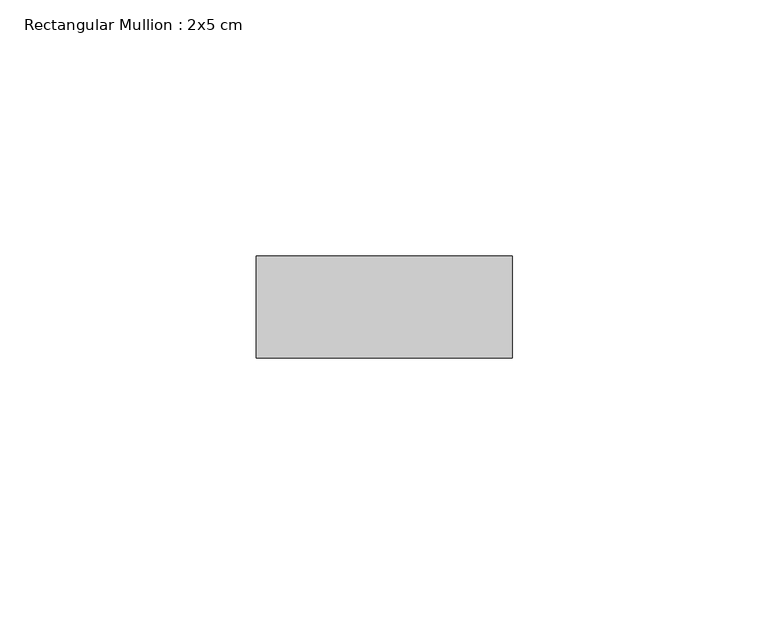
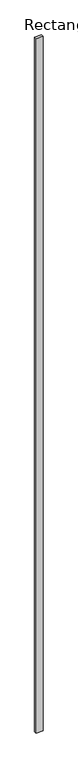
"""IFC4 building model written with IfcOpenShell, lengths in millimetres: member geometry, Rectangular Mullion : 2x5 cm."""

import ifcopenshell
import ifcopenshell.guid

model = None  # the IFC model being written
_history = None  # IfcOwnerHistory: only IFC2X3 demands one
_inside = {}  # id of a spatial element -> (the spatial element, [elements in it])
_under = {}  # id of a project, library or spatial element -> (it, [spatial elements below it])
_declared = {}  # id of a project -> (the project, [libraries it declares])
_typed = {}  # id of a type object -> (the type object, [elements of that type])
_made_of = {}  # id of a material, layer set ... -> (it, [elements and type objects made of it])


def new_model(schema):
    """Start an empty IFC model of exactly this schema.

    Asked for "IFC4X3", IfcOpenShell would pick the latest addendum, in which some entities
    have other attributes; the version numbers below select the first issue.
    IFC2X3 requires an IfcOwnerHistory on every rooted entity: one is made here for all.
    """
    global model, _history
    if schema == "IFC4X3":
        model = ifcopenshell.file(schema_version=(4, 3, 0, 0))
    else:
        model = ifcopenshell.file(schema=schema)
    _inside.clear()
    _under.clear()
    _declared.clear()
    _typed.clear()
    _made_of.clear()
    _history = None
    if model.schema == "IFC2X3":
        org = make("IfcOrganization", Name="unknown")
        user = make(
            "IfcPersonAndOrganization",
            ThePerson=make("IfcPerson", FamilyName="unknown"),
            TheOrganization=org,
        )
        app = make(
            "IfcApplication",
            ApplicationDeveloper=org,
            Version="unknown",
            ApplicationFullName="unknown",
            ApplicationIdentifier="unknown",
        )
        _history = make(
            "IfcOwnerHistory",
            OwningUser=user,
            OwningApplication=app,
            ChangeAction="ADDED",
            CreationDate=0,
        )
    return model


def make(cls, **values):
    """One entity of the class cls with the attributes given. An attribute that is None is left unset."""
    return model.create_entity(
        cls, **{name: value for name, value in values.items() if value is not None}
    )


def rooted(cls, **values):
    """An entity with a GlobalId (a new one), such as an element, a storey or a relation."""
    return make(cls, GlobalId=ifcopenshell.guid.new(), OwnerHistory=_history, **values)


def si_unit(unit_type, name, prefix=None):
    """IfcSIUnit, for example si_unit("LENGTHUNIT", "METRE", prefix="MILLI")."""
    return make("IfcSIUnit", UnitType=unit_type, Prefix=prefix, Name=name)


def assignment(units):
    """IfcUnitAssignment: the units of a project."""
    return None if units is None else make("IfcUnitAssignment", Units=units)


def point(xyz):
    """IfcCartesianPoint."""
    return None if xyz is None else make("IfcCartesianPoint", Coordinates=xyz)


def direction(xyz):
    """IfcDirection."""
    return None if xyz is None else make("IfcDirection", DirectionRatios=xyz)


def frame(location, z_axis=None, x_axis=None):
    """IfcAxis2Placement3D, a coordinate frame: its origin and axes. An axis left out is left unset."""
    return make(
        "IfcAxis2Placement3D",
        Location=point(location),
        Axis=direction(z_axis),
        RefDirection=direction(x_axis),
    )


def origin():
    """The frame at (0, 0, 0) with its axes left unset."""
    return frame((0.0, 0.0, 0.0))


def place(relative_to, where):
    """IfcLocalPlacement: puts the frame where relative to a parent placement (None: the world)."""
    return make(
        "IfcLocalPlacement", PlacementRelTo=relative_to, RelativePlacement=where
    )


def context(
    kind, dimensions, precision=None, world=None, true_north=None, identifier=None
):
    """IfcGeometricRepresentationContext, for example the 3D "Model" context."""
    return make(
        "IfcGeometricRepresentationContext",
        ContextIdentifier=identifier,
        ContextType=kind,
        CoordinateSpaceDimension=dimensions,
        Precision=precision,
        WorldCoordinateSystem=world,
        TrueNorth=true_north,
    )


def project(units=None, contexts=None):
    """IfcProject with its units and contexts."""
    return rooted(
        "IfcProject",
        Name="project",
        RepresentationContexts=contexts,
        UnitsInContext=assignment(units),
    )


def spatial(cls, under=None, at=None, **own):
    """A site, building, storey or space (cls), placed at a placement, below another one or the project."""
    s = rooted(cls, ObjectPlacement=at, **own)
    if under is not None:
        _under.setdefault(under.id(), (under, []))[1].append(s)
    return s


def polyline(points):
    """IfcPolyline through the points."""
    return make("IfcPolyline", Points=[point(p) for p in points])


def outline(outer, holes=None, kind="AREA"):
    """IfcArbitraryClosedProfileDef: a profile drawn as a closed curve; with holes, ...WithVoids."""
    if holes is None:
        return make("IfcArbitraryClosedProfileDef", ProfileType=kind, OuterCurve=outer)
    return make(
        "IfcArbitraryProfileDefWithVoids",
        ProfileType=kind,
        OuterCurve=outer,
        InnerCurves=holes,
    )


def extrude(swept, where, along, depth):
    """IfcExtrudedAreaSolid: the profile swept, set in the frame where, extruded along a direction by depth."""
    return make(
        "IfcExtrudedAreaSolid",
        SweptArea=swept,
        Position=where,
        ExtrudedDirection=direction(along),
        Depth=depth,
    )


def shape(context_of_items, identifier, shape_type, items):
    """IfcShapeRepresentation: the items that make up one representation, for example the "Body"."""
    return make(
        "IfcShapeRepresentation",
        ContextOfItems=context_of_items,
        RepresentationIdentifier=identifier,
        RepresentationType=shape_type,
        Items=items,
    )


def source(mapping_origin, context_of_items, identifier, shape_type, items):
    """IfcRepresentationMap: a shape defined once, which mapped items show again and again."""
    return make(
        "IfcRepresentationMap",
        MappingOrigin=mapping_origin,
        MappedRepresentation=shape(context_of_items, identifier, shape_type, items),
    )


def transform(
    local_origin,
    x_axis=None,
    y_axis=None,
    z_axis=None,
    scale=None,
    scale2=None,
    scale3=None,
    uniform=True,
):
    """IfcCartesianTransformationOperator3D, or its non-uniform kind. x_axis, y_axis, z_axis: its Axis1, 2, 3."""
    if uniform:
        return make(
            "IfcCartesianTransformationOperator3D",
            Axis1=direction(x_axis),
            Axis2=direction(y_axis),
            LocalOrigin=point(local_origin),
            Scale=scale,
            Axis3=direction(z_axis),
        )
    return make(
        "IfcCartesianTransformationOperator3DnonUniform",
        Axis1=direction(x_axis),
        Axis2=direction(y_axis),
        LocalOrigin=point(local_origin),
        Scale=scale,
        Axis3=direction(z_axis),
        Scale2=scale2,
        Scale3=scale3,
    )


def mapped(mapping_source, mapping_target):
    """IfcMappedItem: shows the shape of a source again, moved by a transform."""
    return make(
        "IfcMappedItem", MappingSource=mapping_source, MappingTarget=mapping_target
    )


def made_of(thing, what):
    """Note that an element or type object is made of a material, layer set ...; save() writes the relation."""
    if what is not None:
        _made_of.setdefault(what.id(), (what, []))[1].append(thing)
    return thing


def element(
    cls,
    number,
    at=None,
    inside=None,
    cuts=None,
    type_object=None,
    material=None,
    context=None,
    identifier="Body",
    shape_type=None,
    held_by="IfcProductDefinitionShape",
    body=None,
    shapes=None,
    **own,
):
    """One element of the class cls, such as IfcWall. Its Tag is "e" and its number.

    at: its placement. inside: the storey or other place that contains it. cuts: it is an
    opening in that element (IfcRelVoidsElement). A single representation is given by context,
    identifier, shape_type and body (its items); several are given by shapes. held_by: the class
    of the entity that holds the representations. save() writes the other relations.
    """
    e = rooted(cls, Tag="e%d" % number, ObjectPlacement=at, **own)
    if body is not None:
        shapes = [shape(context, identifier, shape_type, body)]
    if shapes is not None:
        e.Representation = make(held_by, Representations=shapes)
    if inside is not None:
        _inside.setdefault(inside.id(), (inside, []))[1].append(e)
    if cuts is not None:
        rooted(
            "IfcRelVoidsElement", RelatingBuildingElement=cuts, RelatedOpeningElement=e
        )
    if type_object is not None:
        _typed.setdefault(type_object.id(), (type_object, []))[1].append(e)
    return made_of(e, material)


def aggregate(whole, parts):
    """IfcRelAggregates: a whole, such as a stair, and the parts it consists of."""
    return rooted("IfcRelAggregates", RelatingObject=whole, RelatedObjects=parts)


def save(model, path):
    """Write the relations noted so far, then the file.

    IfcRelAggregates (storeys below a building ...), IfcRelContainedInSpatialStructure (elements
    in a storey), IfcRelDefinesByType, IfcRelAssociatesMaterial and IfcRelDeclares: one each for
    every whole, place, type object, material and project.
    """
    for whole, parts in _under.values():
        aggregate(whole, parts)
    for where, things in _inside.values():
        rooted(
            "IfcRelContainedInSpatialStructure",
            RelatedElements=things,
            RelatingStructure=where,
        )
    for kind, things in _typed.values():
        rooted("IfcRelDefinesByType", RelatedObjects=things, RelatingType=kind)
    for what, things in _made_of.values():
        rooted("IfcRelAssociatesMaterial", RelatedObjects=things, RelatingMaterial=what)
    for by, libraries in _declared.values():
        rooted("IfcRelDeclares", RelatingContext=by, RelatedDefinitions=libraries)
    model.write(path)


def rectangular_mullion_2x5_cm_c8bd1f3e(model_context):
    return source(origin(), model_context, "Body", "SweptSolid", [
        extrude(outline(polyline([(50.0, 20.0), (50.0, 0.0), (0.0, 0.0), (0.0, 20.0), (50.0, 20.0)])), frame((0.0, 0.0, -5441.9732395), z_axis=(0.0, 0.0, 1.0), x_axis=(1.0, 0.0, 0.0)), (0.0, 0.0, 1.0), 5441.9732395),
    ])


if __name__ == "__main__":
    model = new_model("IFC4")
    model_context = context("Model", 3, world=origin())
    ifc_project = project(units=[si_unit("LENGTHUNIT", "METRE", prefix="MILLI")], contexts=[model_context])
    site = spatial("IfcSite", under=ifc_project)
    building = spatial("IfcBuilding", under=site)
    placement = place(None, origin())
    rectangular_mullion_2x5_cm_shape = rectangular_mullion_2x5_cm_c8bd1f3e(model_context)
    element("IfcMember", 1, ObjectType="Rectangular Mullion : 2x5 cm", at=placement, inside=building, context=model_context, shape_type="MappedRepresentation", body=[
        mapped(rectangular_mullion_2x5_cm_shape, transform((0.0, 0.0, 0.0), x_axis=(1.0, 0.0, 0.0), y_axis=(0.0, 1.0, 0.0), z_axis=(0.0, 0.0, 1.0))),
    ])
    save(model, "model.ifc")
